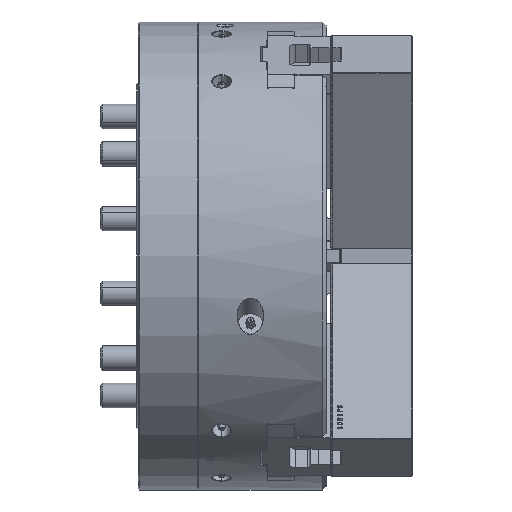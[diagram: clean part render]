
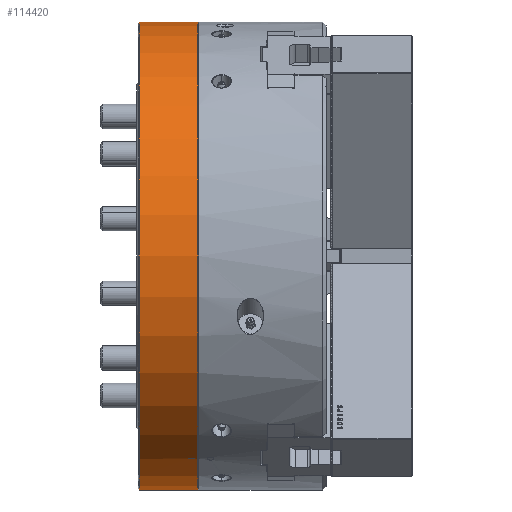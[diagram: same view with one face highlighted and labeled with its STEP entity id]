
A CAD part, front view. The second image highlights one B-rep face of the part: STEP entity #114420.
In plain terms, the highlighted cylindrical face has radius 190.5 mm (diameter 381 mm), a partial arc.
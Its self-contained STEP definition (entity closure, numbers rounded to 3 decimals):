
#147 = EDGE_CURVE ( 'NONE', #25203, #8393, #47538, .T. ) ;
#2355 = CARTESIAN_POINT ( 'NONE',  ( -104.5, 0., 0. ) ) ;
#8393 = VERTEX_POINT ( 'NONE', #143951 ) ;
#10955 = CARTESIAN_POINT ( 'NONE',  ( -245.149, 0., -190.5 ) ) ;
#13277 = LINE ( 'NONE', #133600, #37781 ) ;
#15168 = CARTESIAN_POINT ( 'NONE',  ( -107., 0., 0. ) ) ;
#20782 = AXIS2_PLACEMENT_3D ( 'NONE', #80842, #171774, #33866 ) ;
#21303 = VECTOR ( 'NONE', #70629, 1000. ) ;
#23485 = EDGE_CURVE ( 'NONE', #55846, #46413, #132698, .T. ) ;
#25203 = VERTEX_POINT ( 'NONE', #136776 ) ;
#26779 = CARTESIAN_POINT ( 'NONE',  ( -152., 0., -190.5 ) ) ;
#32608 = DIRECTION ( 'NONE',  ( 0., 0., 1. ) ) ;
#33048 = ORIENTED_EDGE ( 'NONE', *, *, #144622, .F. ) ;
#33866 = DIRECTION ( 'NONE',  ( 0., 0., 1. ) ) ;
#34567 = VERTEX_POINT ( 'NONE', #165053 ) ;
#37781 = VECTOR ( 'NONE', #132646, 1000. ) ;
#42408 = ORIENTED_EDGE ( 'NONE', *, *, #120742, .F. ) ;
#46413 = VERTEX_POINT ( 'NONE', #128376 ) ;
#47538 = CIRCLE ( 'NONE', #116249, 190.5 ) ;
#48804 = DIRECTION ( 'NONE',  ( -1., 0., 0. ) ) ;
#52415 = CYLINDRICAL_SURFACE ( 'NONE', #20782, 190.5 ) ;
#54978 = LINE ( 'NONE', #10955, #21303 ) ;
#55846 = VERTEX_POINT ( 'NONE', #109269 ) ;
#59634 = DIRECTION ( 'NONE',  ( 0., 0., 1. ) ) ;
#63528 = LINE ( 'NONE', #109440, #85233 ) ;
#70621 = VECTOR ( 'NONE', #141282, 1000. ) ;
#70629 = DIRECTION ( 'NONE',  ( -1., 0., 0. ) ) ;
#71063 = CIRCLE ( 'NONE', #189723, 190.5 ) ;
#71253 = EDGE_LOOP ( 'NONE', ( #150975, #77213, #92307, #42408 ) ) ;
#74855 = DIRECTION ( 'NONE',  ( -1., 0., 0. ) ) ;
#77213 = ORIENTED_EDGE ( 'NONE', *, *, #147, .T. ) ;
#77762 = CIRCLE ( 'NONE', #168254, 190.5 ) ;
#80842 = CARTESIAN_POINT ( 'NONE',  ( -245.149, 0., 0. ) ) ;
#85233 = VECTOR ( 'NONE', #48804, 1000. ) ;
#88962 = AXIS2_PLACEMENT_3D ( 'NONE', #97957, #189883, #155765 ) ;
#92307 = ORIENTED_EDGE ( 'NONE', *, *, #123549, .T. ) ;
#96437 = FACE_BOUND ( 'NONE', #145262, .T. ) ;
#97957 = CARTESIAN_POINT ( 'NONE',  ( -112., 0., 0. ) ) ;
#99642 = ORIENTED_EDGE ( 'NONE', *, *, #128295, .T. ) ;
#109269 = CARTESIAN_POINT ( 'NONE',  ( -112., -95.683, -164.727 ) ) ;
#109440 = CARTESIAN_POINT ( 'NONE',  ( -245.149, -94.817, -165.227 ) ) ;
#114420 = ADVANCED_FACE ( 'NONE', ( #155202, #96437 ), #52415, .T. ) ;
#116249 = AXIS2_PLACEMENT_3D ( 'NONE', #2355, #121652, #32608 ) ;
#118871 = EDGE_CURVE ( 'NONE', #34567, #184789, #71063, .T. ) ;
#119827 = DIRECTION ( 'NONE',  ( 0., 0., 1. ) ) ;
#120742 = EDGE_CURVE ( 'NONE', #177435, #168187, #77762, .T. ) ;
#121652 = DIRECTION ( 'NONE',  ( -1., 0., 0. ) ) ;
#123549 = EDGE_CURVE ( 'NONE', #8393, #168187, #13277, .T. ) ;
#126617 = CARTESIAN_POINT ( 'NONE',  ( -245.149, -95.683, -164.727 ) ) ;
#128295 = EDGE_CURVE ( 'NONE', #34567, #46413, #63528, .T. ) ;
#128376 = CARTESIAN_POINT ( 'NONE',  ( -112., -94.817, -165.227 ) ) ;
#132646 = DIRECTION ( 'NONE',  ( -1., 0., 0. ) ) ;
#132698 = CIRCLE ( 'NONE', #88962, 190.5 ) ;
#133600 = CARTESIAN_POINT ( 'NONE',  ( -245.149, 0., 190.5 ) ) ;
#133980 = DIRECTION ( 'NONE',  ( -1., 0., 0. ) ) ;
#136776 = CARTESIAN_POINT ( 'NONE',  ( -104.5, 0., -190.5 ) ) ;
#141282 = DIRECTION ( 'NONE',  ( -1., 0., 0. ) ) ;
#143951 = CARTESIAN_POINT ( 'NONE',  ( -104.5, 0., 190.5 ) ) ;
#144622 = EDGE_CURVE ( 'NONE', #184789, #55846, #166066, .T. ) ;
#145262 = EDGE_LOOP ( 'NONE', ( #183236, #99642, #182576, #33048 ) ) ;
#147696 = CARTESIAN_POINT ( 'NONE',  ( -152., 0., 0. ) ) ;
#150975 = ORIENTED_EDGE ( 'NONE', *, *, #153235, .F. ) ;
#153235 = EDGE_CURVE ( 'NONE', #25203, #177435, #54978, .T. ) ;
#155202 = FACE_OUTER_BOUND ( 'NONE', #71253, .T. ) ;
#155765 = DIRECTION ( 'NONE',  ( 0., 0., -1. ) ) ;
#165053 = CARTESIAN_POINT ( 'NONE',  ( -107., -94.817, -165.227 ) ) ;
#166066 = LINE ( 'NONE', #126617, #70621 ) ;
#168187 = VERTEX_POINT ( 'NONE', #180915 ) ;
#168254 = AXIS2_PLACEMENT_3D ( 'NONE', #147696, #133980, #59634 ) ;
#171774 = DIRECTION ( 'NONE',  ( -1., 0., 0. ) ) ;
#177435 = VERTEX_POINT ( 'NONE', #26779 ) ;
#180915 = CARTESIAN_POINT ( 'NONE',  ( -152., 0., 190.5 ) ) ;
#182576 = ORIENTED_EDGE ( 'NONE', *, *, #23485, .F. ) ;
#183236 = ORIENTED_EDGE ( 'NONE', *, *, #118871, .F. ) ;
#184789 = VERTEX_POINT ( 'NONE', #193180 ) ;
#189723 = AXIS2_PLACEMENT_3D ( 'NONE', #15168, #74855, #119827 ) ;
#189883 = DIRECTION ( 'NONE',  ( 1., 0., 0. ) ) ;
#193180 = CARTESIAN_POINT ( 'NONE',  ( -107., -95.683, -164.727 ) ) ;
